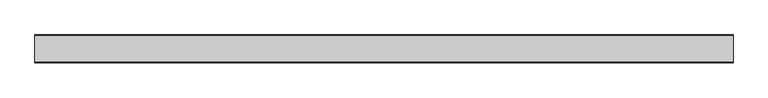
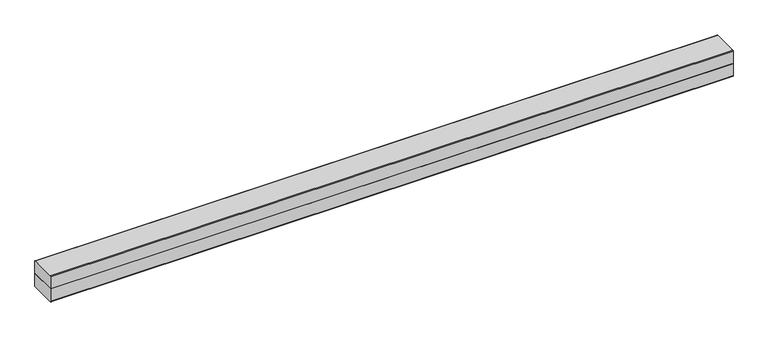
"""IFC4 building model written with IfcOpenShell, lengths in millimetres: proxy geometry, Weiku - Caixa de Persiana : Weiku - Persiana 180mm x 180mm."""

from ifc_helpers import new_model, si_unit, point, frame, frame_2d, origin, place, context, project, spatial, polyline, circle_curve, trimmed, segment, composite_curve, outline, extrude, source, transform, mapped, element, save


def generic_models_9704e213(model_context):
    return source(origin(), model_context, "Body", "SweptSolid", [
        extrude(outline(composite_curve([segment(polyline([(90.0, 0.0), (90.0, -86.0)]), True, "CONTINUOUS"), segment(trimmed(circle_curve(frame_2d((86.0, -86.0)), 4.0), [point((90.0, -86.0))], [point((86.0, -90.0))], False, "CARTESIAN"), True, "CONTINUOUS"), segment(polyline([(86.0, -90.0), (-86.0, -90.0)]), True, "CONTINUOUS"), segment(trimmed(circle_curve(frame_2d((-86.0, -86.0)), 4.0), [point((-86.0, -90.0))], [point((-90.0, -86.0))], False, "CARTESIAN"), True, "CONTINUOUS"), segment(polyline([(-90.0, -86.0), (-90.0, 0.0), (90.0, 0.0)]), True, "CONTINUOUS")], self_intersect=False)), frame((-2247.0, 0.0, 0.0), z_axis=(1.0, 0.0, 0.0), x_axis=(0.0, 1.0, 0.0)), (0.0, 0.0, 1.0), 4494.0),
        extrude(outline(composite_curve([segment(polyline([(90.0, 0.0), (-90.0, 0.0), (-90.0, 86.0)]), True, "CONTINUOUS"), segment(trimmed(circle_curve(frame_2d((-86.0, 86.0)), 4.0), [point((-90.0, 86.0))], [point((-86.0, 90.0))], False, "CARTESIAN"), True, "CONTINUOUS"), segment(polyline([(-86.0, 90.0), (86.0, 90.0)]), True, "CONTINUOUS"), segment(trimmed(circle_curve(frame_2d((86.0, 86.0)), 4.0), [point((86.0, 90.0))], [point((90.0, 86.0))], False, "CARTESIAN"), True, "CONTINUOUS"), segment(polyline([(90.0, 86.0), (90.0, 0.0)]), True, "CONTINUOUS")], self_intersect=False)), frame((-2247.0, 0.0, 0.0), z_axis=(1.0, 0.0, 0.0), x_axis=(0.0, 1.0, 0.0)), (0.0, 0.0, 1.0), 4494.0),
    ])


if __name__ == "__main__":
    model = new_model("IFC4")
    model_context = context("Model", 3, world=origin())
    ifc_project = project(units=[si_unit("LENGTHUNIT", "METRE", prefix="MILLI")], contexts=[model_context])
    site = spatial("IfcSite", under=ifc_project)
    building = spatial("IfcBuilding", under=site)
    placement = place(None, origin())
    generic_models_shape = generic_models_9704e213(model_context)
    element("IfcBuildingElementProxy", 1, Name="Weiku - Caixa de Persiana : Weiku - Persiana 180mm x 180mm", ObjectType="Weiku - Caixa de Persiana : Weiku - Persiana 180mm x 180mm", at=placement, inside=building, context=model_context, shape_type="MappedRepresentation", body=[
        mapped(generic_models_shape, transform((0.0, 0.0, 0.0), x_axis=(1.0, 0.0, 0.0), y_axis=(0.0, 1.0, 0.0), z_axis=(0.0, 0.0, 1.0))),
    ])
    save(model, "model.ifc")
